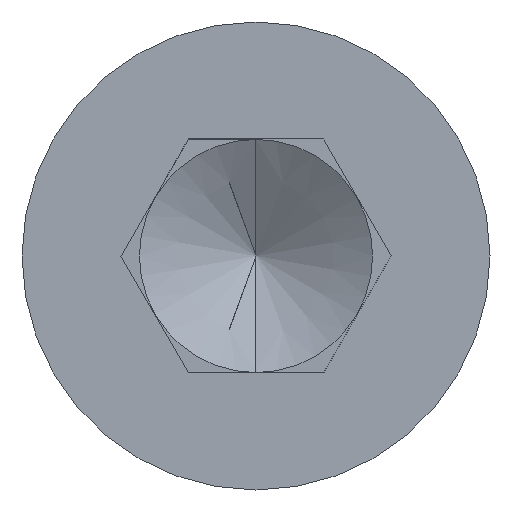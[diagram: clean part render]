
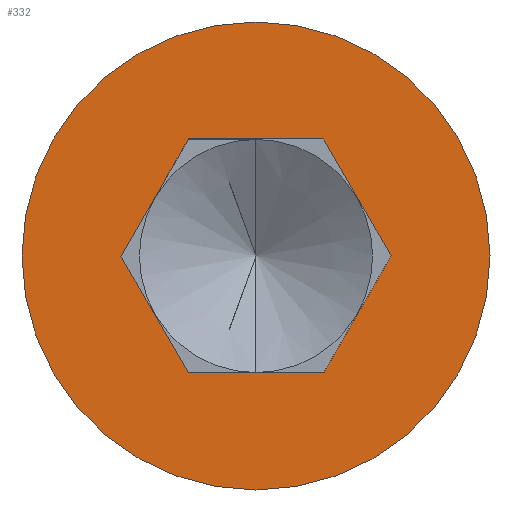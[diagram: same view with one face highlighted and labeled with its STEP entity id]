
A CAD part, left-side view. The second image highlights one B-rep face of the part: STEP entity #332.
In plain terms, the highlighted planar face has unit normal (-1, 0, 0).
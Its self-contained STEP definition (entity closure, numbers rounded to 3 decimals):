
#6 = EDGE_CURVE ( 'NONE', #239, #125, #334, .T. ) ;
#13 = CARTESIAN_POINT ( 'NONE',  ( -6., 1.443, 2.5 ) ) ;
#25 = DIRECTION ( 'NONE',  ( 0., -1., 0. ) ) ;
#26 = DIRECTION ( 'NONE',  ( 0., 0., 1. ) ) ;
#45 = EDGE_CURVE ( 'NONE', #120, #431, #269, .T. ) ;
#48 = CARTESIAN_POINT ( 'NONE',  ( -6., 0., 5. ) ) ;
#51 = DIRECTION ( 'NONE',  ( 0., 0., 1. ) ) ;
#72 = CARTESIAN_POINT ( 'NONE',  ( -6., 2.5, 2.5 ) ) ;
#74 = CARTESIAN_POINT ( 'NONE',  ( -6., 0., -5. ) ) ;
#80 = FACE_BOUND ( 'NONE', #179, .T. ) ;
#81 = ORIENTED_EDGE ( 'NONE', *, *, #375, .T. ) ;
#90 = VERTEX_POINT ( 'NONE', #453 ) ;
#97 = EDGE_CURVE ( 'NONE', #431, #545, #168, .T. ) ;
#118 = CARTESIAN_POINT ( 'NONE',  ( -6., -2.887, 0. ) ) ;
#120 = VERTEX_POINT ( 'NONE', #306 ) ;
#125 = VERTEX_POINT ( 'NONE', #48 ) ;
#132 = EDGE_CURVE ( 'NONE', #125, #239, #152, .T. ) ;
#138 = CARTESIAN_POINT ( 'NONE',  ( -6., -1.443, 2.5 ) ) ;
#139 = VERTEX_POINT ( 'NONE', #218 ) ;
#148 = VECTOR ( 'NONE', #493, 1000. ) ;
#152 = CIRCLE ( 'NONE', #538, 5. ) ;
#158 = VECTOR ( 'NONE', #494, 1000. ) ;
#168 = LINE ( 'NONE', #457, #386 ) ;
#173 = DIRECTION ( 'NONE',  ( 1., 0., 0. ) ) ;
#179 = EDGE_LOOP ( 'NONE', ( #449, #489, #398, #378, #259, #81 ) ) ;
#184 = VECTOR ( 'NONE', #381, 1000. ) ;
#189 = ORIENTED_EDGE ( 'NONE', *, *, #6, .F. ) ;
#196 = FACE_OUTER_BOUND ( 'NONE', #230, .T. ) ;
#218 = CARTESIAN_POINT ( 'NONE',  ( -6., -1.443, -2.5 ) ) ;
#220 = EDGE_CURVE ( 'NONE', #545, #278, #224, .T. ) ;
#224 = LINE ( 'NONE', #72, #443 ) ;
#230 = EDGE_LOOP ( 'NONE', ( #359, #189 ) ) ;
#234 = CARTESIAN_POINT ( 'NONE',  ( -6., 1.443, -2.5 ) ) ;
#239 = VERTEX_POINT ( 'NONE', #74 ) ;
#240 = DIRECTION ( 'NONE',  ( 0., -0.5, 0.866 ) ) ;
#244 = PLANE ( 'NONE',  #486 ) ;
#249 = DIRECTION ( 'NONE',  ( 0., -0.5, -0.866 ) ) ;
#259 = ORIENTED_EDGE ( 'NONE', *, *, #333, .T. ) ;
#269 = LINE ( 'NONE', #234, #148 ) ;
#278 = VERTEX_POINT ( 'NONE', #312 ) ;
#293 = DIRECTION ( 'NONE',  ( -1., 0., 0. ) ) ;
#303 = VECTOR ( 'NONE', #249, 1000. ) ;
#306 = CARTESIAN_POINT ( 'NONE',  ( -6., 1.443, -2.5 ) ) ;
#309 = DIRECTION ( 'NONE',  ( 1., 0., 0. ) ) ;
#312 = CARTESIAN_POINT ( 'NONE',  ( -6., -1.443, 2.5 ) ) ;
#314 = AXIS2_PLACEMENT_3D ( 'NONE', #432, #173, #475 ) ;
#323 = CARTESIAN_POINT ( 'NONE',  ( -6., 2.5, -2.5 ) ) ;
#332 = ADVANCED_FACE ( 'NONE', ( #80, #196 ), #244, .T. ) ;
#333 = EDGE_CURVE ( 'NONE', #278, #90, #413, .T. ) ;
#334 = CIRCLE ( 'NONE', #314, 5. ) ;
#359 = ORIENTED_EDGE ( 'NONE', *, *, #132, .F. ) ;
#375 = EDGE_CURVE ( 'NONE', #90, #139, #427, .T. ) ;
#378 = ORIENTED_EDGE ( 'NONE', *, *, #220, .T. ) ;
#381 = DIRECTION ( 'NONE',  ( 0., 0.5, -0.866 ) ) ;
#385 = CARTESIAN_POINT ( 'NONE',  ( -6., 2.887, 0. ) ) ;
#386 = VECTOR ( 'NONE', #240, 1000. ) ;
#398 = ORIENTED_EDGE ( 'NONE', *, *, #97, .T. ) ;
#413 = LINE ( 'NONE', #138, #303 ) ;
#427 = LINE ( 'NONE', #118, #184 ) ;
#431 = VERTEX_POINT ( 'NONE', #385 ) ;
#432 = CARTESIAN_POINT ( 'NONE',  ( -6., 0., 0. ) ) ;
#443 = VECTOR ( 'NONE', #25, 1000. ) ;
#449 = ORIENTED_EDGE ( 'NONE', *, *, #518, .T. ) ;
#453 = CARTESIAN_POINT ( 'NONE',  ( -6., -2.887, 0. ) ) ;
#457 = CARTESIAN_POINT ( 'NONE',  ( -6., 2.887, 0. ) ) ;
#475 = DIRECTION ( 'NONE',  ( 0., 0., 1. ) ) ;
#486 = AXIS2_PLACEMENT_3D ( 'NONE', #546, #293, #26 ) ;
#489 = ORIENTED_EDGE ( 'NONE', *, *, #45, .T. ) ;
#493 = DIRECTION ( 'NONE',  ( 0., 0.5, 0.866 ) ) ;
#494 = DIRECTION ( 'NONE',  ( 0., 1., 0. ) ) ;
#501 = LINE ( 'NONE', #323, #158 ) ;
#518 = EDGE_CURVE ( 'NONE', #139, #120, #501, .T. ) ;
#538 = AXIS2_PLACEMENT_3D ( 'NONE', #563, #309, #51 ) ;
#545 = VERTEX_POINT ( 'NONE', #13 ) ;
#546 = CARTESIAN_POINT ( 'NONE',  ( -6., 2.5, 0. ) ) ;
#563 = CARTESIAN_POINT ( 'NONE',  ( -6., 0., 0. ) ) ;
